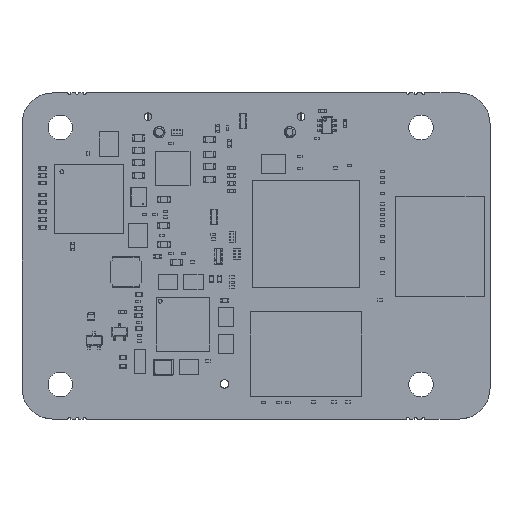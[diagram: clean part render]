
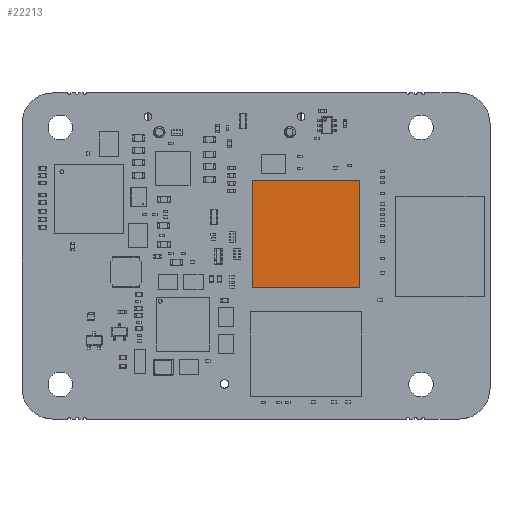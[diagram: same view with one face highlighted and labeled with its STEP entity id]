
A CAD part, top view. The second image highlights one B-rep face of the part: STEP entity #22213.
In plain terms, the highlighted planar face has unit normal (0, 0, 1).
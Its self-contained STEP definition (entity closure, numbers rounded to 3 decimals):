
#19562 = EDGE_CURVE( '', #36353, #36354, #36355, .T. );
#22213 = ADVANCED_FACE( '', ( #40377 ), #40378, .F. );
#23623 = EDGE_CURVE( '', #42016, #42470, #42471, .T. );
#24684 = EDGE_CURVE( '', #42470, #36353, #44043, .T. );
#26229 = EDGE_CURVE( '', #36354, #42016, #46308, .T. );
#36353 = VERTEX_POINT( '', #53662 );
#36354 = VERTEX_POINT( '', #53663 );
#36355 = LINE( '', #53664, #53665 );
#40377 = FACE_OUTER_BOUND( '', #57856, .T. );
#40378 = PLANE( '', #57857 );
#42016 = VERTEX_POINT( '', #59583 );
#42470 = VERTEX_POINT( '', #60058 );
#42471 = LINE( '', #60059, #60060 );
#44043 = LINE( '', #61690, #61691 );
#46308 = LINE( '', #64077, #64078 );
#53662 = CARTESIAN_POINT( '', ( -7., -7., 0.97 ) );
#53663 = CARTESIAN_POINT( '', ( 7., -7., 0.97 ) );
#53664 = CARTESIAN_POINT( '', ( -7., -7., 0.97 ) );
#53665 = VECTOR( '', #69667, 1000. );
#57856 = EDGE_LOOP( '', ( #81708, #81709, #81710, #81711 ) );
#57857 = AXIS2_PLACEMENT_3D( '', #81712, #81713, #81714 );
#59583 = CARTESIAN_POINT( '', ( 7., 7., 0.97 ) );
#60058 = CARTESIAN_POINT( '', ( -7., 7., 0.97 ) );
#60059 = CARTESIAN_POINT( '', ( 7., 7., 0.97 ) );
#60060 = VECTOR( '', #87802, 1000. );
#61690 = CARTESIAN_POINT( '', ( -7., 7., 0.97 ) );
#61691 = VECTOR( '', #92635, 1000. );
#64077 = CARTESIAN_POINT( '', ( 7., -7., 0.97 ) );
#64078 = VECTOR( '', #99759, 1000. );
#69667 = DIRECTION( '', ( 1., 0., 0. ) );
#81708 = ORIENTED_EDGE( '', *, *, #24684, .T. );
#81709 = ORIENTED_EDGE( '', *, *, #19562, .T. );
#81710 = ORIENTED_EDGE( '', *, *, #26229, .T. );
#81711 = ORIENTED_EDGE( '', *, *, #23623, .T. );
#81712 = CARTESIAN_POINT( '', ( -7., 7., 0.97 ) );
#81713 = DIRECTION( '', ( 0., 0., -1. ) );
#81714 = DIRECTION( '', ( 0., -1., 0. ) );
#87802 = DIRECTION( '', ( -1., 0., 0. ) );
#92635 = DIRECTION( '', ( 0., -1., 0. ) );
#99759 = DIRECTION( '', ( 0., 1., 0. ) );
